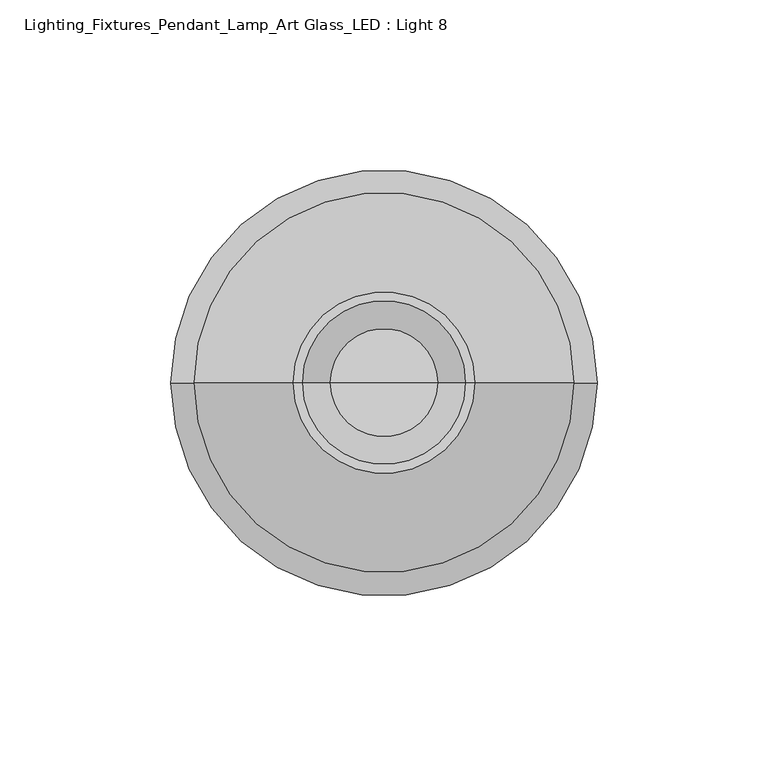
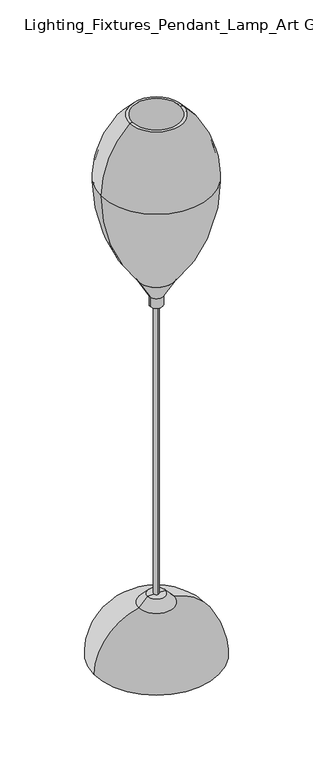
"""IFC4 building model written with IfcOpenShell, lengths in millimetres: light fixture geometry, Lighting_Fixtures_Pendant_Lamp_Art Glass_LED : Light 8."""

from ifc_helpers import new_model, si_unit, point, frame, frame_2d, origin, place, context, project, spatial, polyline, circle_curve, ellipse_curve, trimmed, segment, composite_curve, outline, extrude, source, transform, mapped, element, save
from ifc_brep_helpers import plane_surface, cylinder_surface, revolved_surface, advanced_brep


def lighting_fixtures_pendant_lamp_art_glass_led_light_8_7261f393(model_context):
    return source(origin(), model_context, "Body", "SolidModel", [
        advanced_brep(
        [(-19.1897668, 0.0, 398.78), (17.3638849, 0.0, 398.78), (14.9258339, 0.0, 398.78), (-16.7517158, 0.0, 398.78), (-56.475441, 0.0, 501.7409929), (54.649559, 0.0, 501.7409929), (-24.8838567, 0.0, 568.325), (23.0579748, 0.0, 568.325), (25.6239323, 0.0, 568.325), (-27.4498143, 0.0, 568.325), (53.3149972, 0.0, 501.7409929), (-55.1408791, 0.0, 501.7409929)],
        [
            (0, 1, circle_curve(frame((-0.912941, 0.0, 398.78), z_axis=(0.0, 0.0, -1.0), x_axis=(1.0, 0.0, 0.0)), 18.2768259)),
            (1, 2),
            (2, 3, circle_curve(frame((-0.912941, 0.0, 398.78), z_axis=(0.0, 0.0, 1.0), x_axis=(1.0, 0.0, 0.0)), 15.8387748)),
            (3, 0),
            (1, 0, circle_curve(frame((-0.912941, 0.0, 398.78), z_axis=(0.0, 0.0, -1.0), x_axis=(1.0, 0.0, 0.0)), 18.2768259)),
            (3, 2, circle_curve(frame((-0.912941, 0.0, 398.78), z_axis=(0.0, 0.0, 1.0), x_axis=(1.0, 0.0, 0.0)), 15.8387748)),
            (4, 5, circle_curve(frame((-0.912941, 0.0, 501.7409929), z_axis=(0.0, 0.0, -1.0), x_axis=(1.0, 0.0, 0.0)), 55.5625)),
            (5, 1, circle_curve(frame((-106.1519799, 0.0, 501.7409929), z_axis=(0.0, 1.0, 0.0), x_axis=(1.0, 0.0, 0.0)), 160.8015389)),
            (0, 4, circle_curve(frame((104.326098, 0.0, 501.7409929), z_axis=(0.0, 1.0, 0.0), x_axis=(-1.0, 0.0, 0.0)), 160.8015389)),
            (5, 4, circle_curve(frame((-0.912941, 0.0, 501.7409929), z_axis=(0.0, 0.0, -1.0), x_axis=(1.0, 0.0, 0.0)), 55.5625)),
            (6, 7, circle_curve(frame((-0.912941, 0.0, 568.325), z_axis=(0.0, 0.0, -1.0), x_axis=(1.0, 0.0, 0.0)), 23.9709158)),
            (7, 8),
            (8, 9, circle_curve(frame((-0.912941, 0.0, 568.325), z_axis=(0.0, 0.0, 1.0), x_axis=(1.0, 0.0, 0.0)), 26.5368733)),
            (9, 6),
            (7, 6, circle_curve(frame((-0.912941, 0.0, 568.325), z_axis=(0.0, 0.0, -1.0), x_axis=(1.0, 0.0, 0.0)), 23.9709158)),
            (9, 8, circle_curve(frame((-0.912941, 0.0, 568.325), z_axis=(0.0, 0.0, 1.0), x_axis=(1.0, 0.0, 0.0)), 26.5368733)),
            (2, 10, circle_curve(frame((-103.9519616, 0.0, 501.7409929), z_axis=(0.0, -1.0, 0.0), x_axis=(1.0, 0.0, 0.0)), 157.2669588)),
            (10, 11, circle_curve(frame((-0.912941, 0.0, 501.7409929), z_axis=(0.0, 0.0, 1.0), x_axis=(1.0, 0.0, 0.0)), 54.2279381)),
            (11, 3, circle_curve(frame((102.1260797, 0.0, 501.7409929), z_axis=(0.0, -1.0, 0.0), x_axis=(-1.0, 0.0, 0.0)), 157.2669588)),
            (11, 10, circle_curve(frame((-0.912941, 0.0, 501.7409929), z_axis=(0.0, 0.0, 1.0), x_axis=(1.0, 0.0, 0.0)), 54.2279381)),
            (8, 5, circle_curve(frame((-36.2342151, 0.0, 501.7409929), z_axis=(0.0, 1.0, 0.0), x_axis=(1.0, 0.0, 0.0)), 90.8837741)),
            (4, 9, circle_curve(frame((34.4083332, 0.0, 501.7409929), z_axis=(0.0, 1.0, 0.0), x_axis=(-1.0, 0.0, 0.0)), 90.8837741)),
            (10, 7, circle_curve(frame((-35.0763411, 0.0, 501.7409929), z_axis=(0.0, -1.0, 0.0), x_axis=(1.0, 0.0, 0.0)), 88.3913382)),
            (6, 11, circle_curve(frame((33.2504591, 0.0, 501.7409929), z_axis=(0.0, -1.0, 0.0), x_axis=(-1.0, 0.0, 0.0)), 88.3913382)),
        ],
        [
            plane_surface(frame((-0.912941, 0.0, 398.78), z_axis=(0.0, 0.0, -1.0), x_axis=(1.0, 0.0, 0.0))),
            revolved_surface(trimmed(ellipse_curve(frame((-106.1519799, 0.0, 501.7409929), z_axis=(0.0, -1.0, 0.0), x_axis=(1.0, 0.0, 0.0)), 160.8015389, 160.8015389), [point((17.3638849, 0.0, 398.78))], [point((54.649559, 0.0, 501.7409929))], True, "CARTESIAN"), (-0.912941, 0.0, 6144.5073186), (0.0, 0.0, 1.0)),
            plane_surface(frame((-0.912941, 0.0, 568.325), z_axis=(0.0, 0.0, 1.0), x_axis=(1.0, 0.0, 0.0))),
            revolved_surface(trimmed(ellipse_curve(frame((-103.9519616, 0.0, 501.7409929), z_axis=(0.0, 1.0, 0.0), x_axis=(1.0, 0.0, 0.0)), 157.2669588, 157.2669588), [point((53.3149972, 0.0, 501.7409929))], [point((14.9258339, 0.0, 398.78))], True, "CARTESIAN"), (-0.912941, 0.0, 6144.5073186), (0.0, 0.0, 1.0)),
            revolved_surface(trimmed(ellipse_curve(frame((-36.2342151, 0.0, 501.7409929), z_axis=(0.0, -1.0, 0.0), x_axis=(1.0, 0.0, 0.0)), 90.8837741, 90.8837741), [point((54.649559, 0.0, 501.7409929))], [point((25.6239323, 0.0, 568.325))], True, "CARTESIAN"), (-0.912941, 0.0, 6144.5073186), (0.0, 0.0, 1.0)),
            revolved_surface(trimmed(ellipse_curve(frame((-35.0763411, 0.0, 501.7409929), z_axis=(0.0, 1.0, 0.0), x_axis=(1.0, 0.0, 0.0)), 88.3913382, 88.3913382), [point((23.0579748, 0.0, 568.325))], [point((53.3149972, 0.0, 501.7409929))], True, "CARTESIAN"), (-0.912941, 0.0, 6144.5073186), (0.0, 0.0, 1.0)),
        ],
        [
            (0, [[1, 2, 3, 4]]),
            (0, [[5, -4, 6, -2]]),
            (1, [[7, 8, -1, 9]]),
            (1, [[10, -9, -5, -8]]),
            (2, [[11, 12, 13, 14]]),
            (2, [[15, -14, 16, -12]]),
            (3, [[-3, 17, 18, 19]]),
            (3, [[-6, -19, 20, -17]]),
            (4, [[-13, 21, -7, 22]]),
            (4, [[-16, -22, -10, -21]]),
            (5, [[-18, 23, -11, 24]]),
            (5, [[-20, -24, -15, -23]]),
        ],
    ),
        advanced_brep(
        [(-7.262941, 0.0, 378.1221316), (5.437059, 0.0, 378.1221316), (5.437059, 0.0, 368.3), (-7.262941, 0.0, 368.3), (-19.1897668, 0.0, 398.78), (17.3638849, 0.0, 398.78), (-0.912941, 0.0, 398.78), (-0.912941, 0.0, 368.3)],
        [
            (0, 1, circle_curve(frame((-0.912941, 0.0, 378.1221316), z_axis=(0.0, 0.0, -1.0), x_axis=(1.0, 0.0, 0.0)), 6.35)),
            (1, 2),
            (2, 3, circle_curve(frame((-0.912941, 0.0, 368.3), z_axis=(0.0, 0.0, 1.0), x_axis=(1.0, 0.0, 0.0)), 6.35)),
            (3, 0),
            (1, 0, circle_curve(frame((-0.912941, 0.0, 378.1221316), z_axis=(0.0, 0.0, -1.0), x_axis=(1.0, 0.0, 0.0)), 6.35)),
            (3, 2, circle_curve(frame((-0.912941, 0.0, 368.3), z_axis=(0.0, 0.0, 1.0), x_axis=(1.0, 0.0, 0.0)), 6.35)),
            (4, 5, circle_curve(frame((-0.912941, 0.0, 398.78), z_axis=(0.0, 0.0, -1.0), x_axis=(1.0, 0.0, 0.0)), 18.2768259)),
            (5, 1),
            (0, 4),
            (5, 4, circle_curve(frame((-0.912941, 0.0, 398.78), z_axis=(0.0, 0.0, -1.0), x_axis=(1.0, 0.0, 0.0)), 18.2768259)),
            (6, 5),
            (4, 6),
            (2, 7),
            (7, 3),
        ],
        [
            cylinder_surface(frame((-0.912941, 0.0, 6144.5073186), z_axis=(0.0, 0.0, 1.0), x_axis=(1.0, 0.0, 0.0)), 6.35),
            revolved_surface(polyline([(5.437059, 0.0, 378.1221316), (17.3638849, 0.0, 398.78)]), (-0.912941, 0.0, 6144.5073186), (0.0, 0.0, 1.0)),
            plane_surface(frame((-0.912941, 0.0, 398.78), z_axis=(0.0, 0.0, 1.0), x_axis=(1.0, 0.0, 0.0))),
            plane_surface(frame((-0.912941, 0.0, 368.3), z_axis=(0.0, 0.0, -1.0), x_axis=(1.0, 0.0, 0.0))),
        ],
        [
            (0, [[1, 2, 3, 4]]),
            (0, [[5, -4, 6, -2]]),
            (1, [[7, 8, -1, 9]]),
            (1, [[10, -9, -5, -8]]),
            (2, [[11, -7, 12]]),
            (2, [[-12, -10, -11]]),
            (3, [[-3, 13, 14]]),
            (3, [[-6, -14, -13]]),
        ],
    ),
        advanced_brep(
        [(-18.6253579, 0.0, 54.4766065), (16.799476, 0.0, 54.4766065), (61.4307936, 0.0, 0.0), (-63.2566756, 0.0, 0.0), (-0.912941, 0.0, 0.0), (-10.0214773, 0.0, 63.5), (8.1955954, 0.0, 63.5), (-0.912941, 0.0, 63.5)],
        [
            (0, 1, circle_curve(frame((-0.912941, 0.0, 54.4766065), z_axis=(0.0, 0.0, -1.0), x_axis=(1.0, 0.0, 0.0)), 17.712417)),
            (1, 2, circle_curve(frame((5.8682936, 0.0, 0.0), z_axis=(0.0, 1.0, 0.0), x_axis=(1.0, 0.0, 0.0)), 55.5625)),
            (2, 3, circle_curve(frame((-0.912941, 0.0, 0.0), z_axis=(0.0, 0.0, 1.0), x_axis=(1.0, 0.0, 0.0)), 62.3437346)),
            (3, 0, circle_curve(frame((-7.6941756, 0.0, 0.0), z_axis=(0.0, 1.0, 0.0), x_axis=(-1.0, 0.0, 0.0)), 55.5625)),
            (1, 0, circle_curve(frame((-0.912941, 0.0, 54.4766065), z_axis=(0.0, 0.0, -1.0), x_axis=(1.0, 0.0, 0.0)), 17.712417)),
            (3, 2, circle_curve(frame((-0.912941, 0.0, 0.0), z_axis=(0.0, 0.0, 1.0), x_axis=(1.0, 0.0, 0.0)), 62.3437346)),
            (2, 4),
            (4, 3),
            (5, 6, circle_curve(frame((-0.912941, 0.0, 63.5), z_axis=(0.0, 0.0, -1.0), x_axis=(1.0, 0.0, 0.0)), 9.1085364)),
            (6, 1),
            (0, 5),
            (6, 5, circle_curve(frame((-0.912941, 0.0, 63.5), z_axis=(0.0, 0.0, -1.0), x_axis=(1.0, 0.0, 0.0)), 9.1085364)),
            (7, 6),
            (5, 7),
        ],
        [
            revolved_surface(trimmed(ellipse_curve(frame((5.8682936, 0.0, 0.0), z_axis=(0.0, -1.0, 0.0), x_axis=(1.0, 0.0, 0.0)), 55.5625, 55.5625), [point((61.4307936, 0.0, 0.0))], [point((16.799476, 0.0, 54.4766065))], True, "CARTESIAN"), (-0.912941, 0.0, 792.7471624), (0.0, 0.0, 1.0)),
            plane_surface(frame((-0.912941, 0.0, 0.0), z_axis=(0.0, 0.0, -1.0), x_axis=(1.0, 0.0, 0.0))),
            revolved_surface(polyline([(16.799476, 0.0, 54.4766065), (8.1955954, 0.0, 63.5)]), (-0.912941, 0.0, 792.7471624), (0.0, 0.0, 1.0)),
            plane_surface(frame((-0.912941, 0.0, 63.5), z_axis=(0.0, 0.0, 1.0), x_axis=(1.0, 0.0, 0.0))),
        ],
        [
            (0, [[1, 2, 3, 4]]),
            (0, [[5, -4, 6, -2]]),
            (1, [[-3, 7, 8]]),
            (1, [[-6, -8, -7]]),
            (2, [[9, 10, -1, 11]]),
            (2, [[12, -11, -5, -10]]),
            (3, [[13, -9, 14]]),
            (3, [[-14, -12, -13]]),
        ],
    ),
        extrude(outline(composite_curve([segment(trimmed(circle_curve(frame_2d((-0.912941, 0.0)), 2.54), [point((-0.912941, 2.54))], [point((-0.912941, -2.54))], False, "CARTESIAN"), True, "CONTINUOUS"), segment(trimmed(circle_curve(frame_2d((-0.912941, 0.0)), 2.54), [point((-0.912941, -2.54))], [point((-0.912941, 2.54))], False, "CARTESIAN"), True, "CONTINUOUS")], self_intersect=False)), frame((0.0, 0.0, 63.5), z_axis=(0.0, 0.0, 1.0), x_axis=(1.0, 0.0, 0.0)), (0.0, 0.0, 1.0), 304.8),
    ])


if __name__ == "__main__":
    model = new_model("IFC4")
    model_context = context("Model", 3, world=origin())
    ifc_project = project(units=[si_unit("LENGTHUNIT", "METRE", prefix="MILLI")], contexts=[model_context])
    site = spatial("IfcSite", under=ifc_project)
    building = spatial("IfcBuilding", under=site)
    placement = place(None, origin())
    lighting_fixtures_pendant_lamp_art_glass_led_light_8_shape = lighting_fixtures_pendant_lamp_art_glass_led_light_8_7261f393(model_context)
    element("IfcLightFixture", 1, ObjectType="Lighting_Fixtures_Pendant_Lamp_Art Glass_LED : Light 8", at=placement, inside=building, context=model_context, shape_type="MappedRepresentation", body=[
        mapped(lighting_fixtures_pendant_lamp_art_glass_led_light_8_shape, transform((0.0, 0.0, 0.0), x_axis=(1.0, 0.0, 0.0), y_axis=(0.0, 1.0, 0.0), z_axis=(0.0, 0.0, 1.0))),
    ])
    save(model, "model.ifc")
